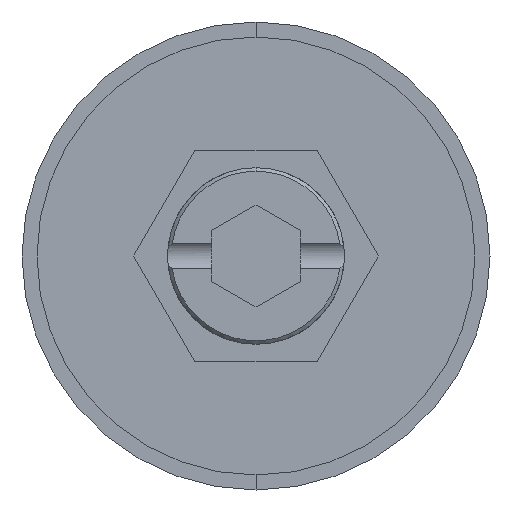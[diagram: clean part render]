
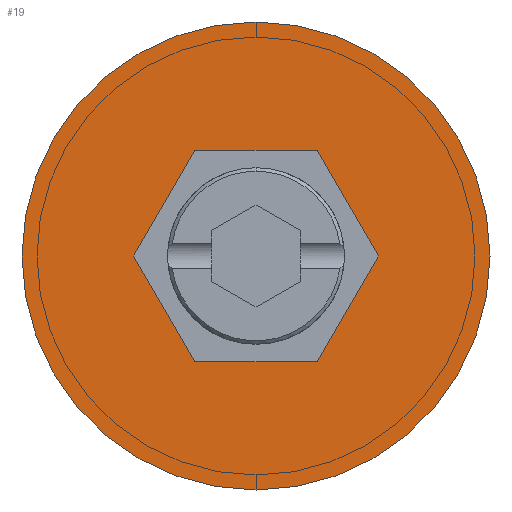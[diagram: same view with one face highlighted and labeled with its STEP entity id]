
A CAD part, front view. The second image highlights one B-rep face of the part: STEP entity #19.
In plain terms, the highlighted planar face has unit normal (0, -1, 0).
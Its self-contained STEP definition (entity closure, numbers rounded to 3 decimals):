
#10 = DIRECTION ( 'NONE',  ( -0.5, 0., -0.866 ) ) ;
#19 = ADVANCED_FACE ( 'NONE', ( #416, #1749 ), #916, .T. ) ;
#58 = AXIS2_PLACEMENT_3D ( 'NONE', #217, #1412, #383 ) ;
#69 = VERTEX_POINT ( 'NONE', #673 ) ;
#77 = VERTEX_POINT ( 'NONE', #1227 ) ;
#140 = CARTESIAN_POINT ( 'NONE',  ( 6.928, 0., 0. ) ) ;
#151 = EDGE_CURVE ( 'NONE', #1315, #69, #1577, .T. ) ;
#195 = VECTOR ( 'NONE', #1334, 1000. ) ;
#217 = CARTESIAN_POINT ( 'NONE',  ( 0., 0., 0. ) ) ;
#224 = DIRECTION ( 'NONE',  ( 0., 0., -1. ) ) ;
#226 = CARTESIAN_POINT ( 'NONE',  ( 0., 0., 0. ) ) ;
#309 = AXIS2_PLACEMENT_3D ( 'NONE', #364, #1326, #224 ) ;
#364 = CARTESIAN_POINT ( 'NONE',  ( 0., 0., 0. ) ) ;
#383 = DIRECTION ( 'NONE',  ( 0., 0., -1. ) ) ;
#397 = DIRECTION ( 'NONE',  ( 0., 0., -1. ) ) ;
#416 = FACE_BOUND ( 'NONE', #803, .T. ) ;
#424 = ORIENTED_EDGE ( 'NONE', *, *, #1247, .F. ) ;
#450 = VERTEX_POINT ( 'NONE', #1243 ) ;
#461 = VECTOR ( 'NONE', #936, 1000. ) ;
#492 = VECTOR ( 'NONE', #10, 1000. ) ;
#493 = CARTESIAN_POINT ( 'NONE',  ( 0., 0., -13.25 ) ) ;
#512 = AXIS2_PLACEMENT_3D ( 'NONE', #226, #1418, #397 ) ;
#628 = DIRECTION ( 'NONE',  ( 0.5, 0., -0.866 ) ) ;
#652 = VERTEX_POINT ( 'NONE', #1059 ) ;
#659 = VECTOR ( 'NONE', #628, 1000. ) ;
#673 = CARTESIAN_POINT ( 'NONE',  ( -6.928, 0., 0. ) ) ;
#679 = ORIENTED_EDGE ( 'NONE', *, *, #2175, .F. ) ;
#769 = CARTESIAN_POINT ( 'NONE',  ( 3.464, 0., 6. ) ) ;
#803 = EDGE_LOOP ( 'NONE', ( #424, #2125, #1135, #679, #1818, #943 ) ) ;
#838 = DIRECTION ( 'NONE',  ( 1., 0., 0. ) ) ;
#916 = PLANE ( 'NONE',  #309 ) ;
#926 = LINE ( 'NONE', #2156, #461 ) ;
#936 = DIRECTION ( 'NONE',  ( 0.5, 0., 0.866 ) ) ;
#943 = ORIENTED_EDGE ( 'NONE', *, *, #2139, .F. ) ;
#944 = VECTOR ( 'NONE', #838, 1000. ) ;
#978 = VERTEX_POINT ( 'NONE', #2032 ) ;
#1059 = CARTESIAN_POINT ( 'NONE',  ( 6.928, 0., 0. ) ) ;
#1105 = ORIENTED_EDGE ( 'NONE', *, *, #1457, .T. ) ;
#1135 = ORIENTED_EDGE ( 'NONE', *, *, #151, .F. ) ;
#1190 = EDGE_CURVE ( 'NONE', #652, #450, #1507, .T. ) ;
#1193 = ORIENTED_EDGE ( 'NONE', *, *, #1470, .T. ) ;
#1224 = VERTEX_POINT ( 'NONE', #493 ) ;
#1227 = CARTESIAN_POINT ( 'NONE',  ( -3.464, 0., -6. ) ) ;
#1243 = CARTESIAN_POINT ( 'NONE',  ( 3.464, 0., 6. ) ) ;
#1247 = EDGE_CURVE ( 'NONE', #77, #978, #1862, .T. ) ;
#1259 = CARTESIAN_POINT ( 'NONE',  ( 0., 0., 13.25 ) ) ;
#1308 = EDGE_LOOP ( 'NONE', ( #1105, #1193 ) ) ;
#1315 = VERTEX_POINT ( 'NONE', #1661 ) ;
#1326 = DIRECTION ( 'NONE',  ( 0., -1., 0. ) ) ;
#1334 = DIRECTION ( 'NONE',  ( -0.5, 0., 0.866 ) ) ;
#1341 = EDGE_CURVE ( 'NONE', #69, #77, #1585, .T. ) ;
#1412 = DIRECTION ( 'NONE',  ( 0., -1., 0. ) ) ;
#1418 = DIRECTION ( 'NONE',  ( 0., -1., 0. ) ) ;
#1457 = EDGE_CURVE ( 'NONE', #1224, #2072, #1782, .T. ) ;
#1470 = EDGE_CURVE ( 'NONE', #2072, #1224, #2240, .T. ) ;
#1476 = VECTOR ( 'NONE', #1809, 1000. ) ;
#1507 = LINE ( 'NONE', #140, #195 ) ;
#1577 = LINE ( 'NONE', #2133, #492 ) ;
#1585 = LINE ( 'NONE', #1844, #659 ) ;
#1661 = CARTESIAN_POINT ( 'NONE',  ( -3.464, 0., 6. ) ) ;
#1709 = CARTESIAN_POINT ( 'NONE',  ( -3.464, 0., -6. ) ) ;
#1749 = FACE_OUTER_BOUND ( 'NONE', #1308, .T. ) ;
#1782 = CIRCLE ( 'NONE', #58, 13.25 ) ;
#1809 = DIRECTION ( 'NONE',  ( -1., 0., 0. ) ) ;
#1818 = ORIENTED_EDGE ( 'NONE', *, *, #1190, .F. ) ;
#1844 = CARTESIAN_POINT ( 'NONE',  ( -6.928, 0., 0. ) ) ;
#1847 = LINE ( 'NONE', #769, #1476 ) ;
#1862 = LINE ( 'NONE', #1709, #944 ) ;
#2032 = CARTESIAN_POINT ( 'NONE',  ( 3.464, 0., -6. ) ) ;
#2072 = VERTEX_POINT ( 'NONE', #1259 ) ;
#2125 = ORIENTED_EDGE ( 'NONE', *, *, #1341, .F. ) ;
#2133 = CARTESIAN_POINT ( 'NONE',  ( -3.464, 0., 6. ) ) ;
#2139 = EDGE_CURVE ( 'NONE', #978, #652, #926, .T. ) ;
#2156 = CARTESIAN_POINT ( 'NONE',  ( 3.464, 0., -6. ) ) ;
#2175 = EDGE_CURVE ( 'NONE', #450, #1315, #1847, .T. ) ;
#2240 = CIRCLE ( 'NONE', #512, 13.25 ) ;
